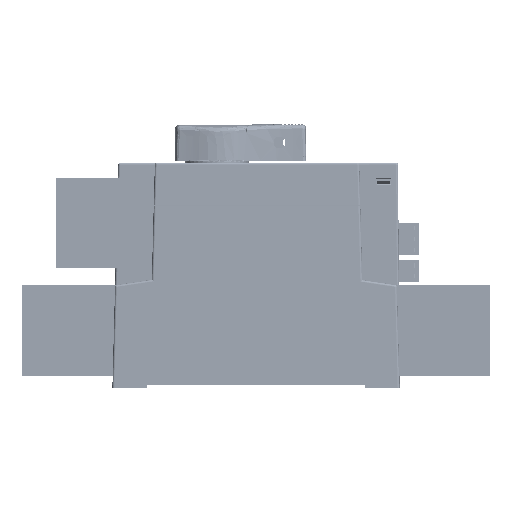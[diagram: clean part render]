
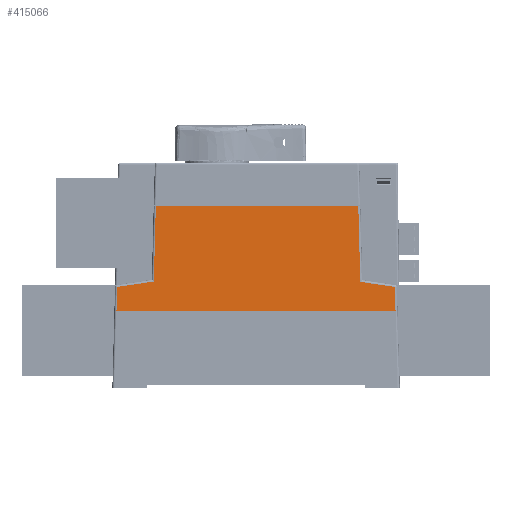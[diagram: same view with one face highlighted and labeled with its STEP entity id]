
A CAD part, left-side view. The second image highlights one B-rep face of the part: STEP entity #415066.
In plain terms, the highlighted planar face has unit normal (-1, 0, 0.018).
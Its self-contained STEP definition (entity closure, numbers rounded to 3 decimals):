
#2977 = VERTEX_POINT ( 'NONE', #84389 ) ;
#7109 = LINE ( 'NONE', #278906, #374508 ) ;
#9544 = VERTEX_POINT ( 'NONE', #373267 ) ;
#23510 = EDGE_LOOP ( 'NONE', ( #284565, #523336, #198663, #212450, #202195, #516081, #252465, #379593 ) ) ;
#53334 = VERTEX_POINT ( 'NONE', #147614 ) ;
#57555 = VERTEX_POINT ( 'NONE', #392911 ) ;
#61555 = CARTESIAN_POINT ( 'NONE',  ( -189.15, -49.022, 48.708 ) ) ;
#73228 = EDGE_CURVE ( 'NONE', #57555, #53334, #498275, .T. ) ;
#76127 = CARTESIAN_POINT ( 'NONE',  ( -188.15, -63.725, 105.97 ) ) ;
#84389 = CARTESIAN_POINT ( 'NONE',  ( -189.389, -65.584, 35. ) ) ;
#94324 = VECTOR ( 'NONE', #326955, 1000. ) ;
#95102 = EDGE_CURVE ( 'NONE', #431000, #217596, #563726, .T. ) ;
#102885 = LINE ( 'NONE', #76127, #292989 ) ;
#132067 = DIRECTION ( 'NONE',  ( 1., 0., -0.017 ) ) ;
#147614 = CARTESIAN_POINT ( 'NONE',  ( -188.525, 47.089, 84.5 ) ) ;
#188930 = CARTESIAN_POINT ( 'NONE',  ( -189.389, 65.584, 35. ) ) ;
#190798 = DIRECTION ( 'NONE',  ( -0.003, -0.989, -0.148 ) ) ;
#192431 = VERTEX_POINT ( 'NONE', #188930 ) ;
#192520 = VECTOR ( 'NONE', #501623, 1000. ) ;
#198663 = ORIENTED_EDGE ( 'NONE', *, *, #506011, .F. ) ;
#200439 = FACE_OUTER_BOUND ( 'NONE', #23510, .T. ) ;
#202195 = ORIENTED_EDGE ( 'NONE', *, *, #95102, .F. ) ;
#209344 = VECTOR ( 'NONE', #477811, 1000. ) ;
#212450 = ORIENTED_EDGE ( 'NONE', *, *, #493351, .T. ) ;
#217596 = VERTEX_POINT ( 'NONE', #560535 ) ;
#243373 = CARTESIAN_POINT ( 'NONE',  ( -188.091, 63.636, 109.371 ) ) ;
#252465 = ORIENTED_EDGE ( 'NONE', *, *, #512360, .F. ) ;
#259396 = CARTESIAN_POINT ( 'NONE',  ( -189.186, 62.778, 46.652 ) ) ;
#263247 = DIRECTION ( 'NONE',  ( 0., 1., 0. ) ) ;
#264398 = CARTESIAN_POINT ( 'NONE',  ( -188.525, 89.402, 84.5 ) ) ;
#278906 = CARTESIAN_POINT ( 'NONE',  ( -188.525, -48.085, 84.5 ) ) ;
#284565 = ORIENTED_EDGE ( 'NONE', *, *, #333116, .F. ) ;
#292989 = VECTOR ( 'NONE', #376173, 1000. ) ;
#298085 = LINE ( 'NONE', #243373, #94324 ) ;
#322611 = DIRECTION ( 'NONE',  ( -0.017, -0.026, -1. ) ) ;
#326955 = DIRECTION ( 'NONE',  ( -0.017, 0.026, -1. ) ) ;
#328427 = CARTESIAN_POINT ( 'NONE',  ( -189.192, 65.288, 46.277 ) ) ;
#333116 = EDGE_CURVE ( 'NONE', #344136, #57555, #419742, .T. ) ;
#344136 = VERTEX_POINT ( 'NONE', #328427 ) ;
#358910 = AXIS2_PLACEMENT_3D ( 'NONE', #561356, #132067, #433944 ) ;
#373267 = CARTESIAN_POINT ( 'NONE',  ( -188.525, -48.085, 84.5 ) ) ;
#374508 = VECTOR ( 'NONE', #322611, 1000. ) ;
#376173 = DIRECTION ( 'NONE',  ( 0.017, 0.026, 1. ) ) ;
#379593 = ORIENTED_EDGE ( 'NONE', *, *, #73228, .F. ) ;
#381484 = LINE ( 'NONE', #264398, #538040 ) ;
#392911 = CARTESIAN_POINT ( 'NONE',  ( -189.147, 48.022, 48.858 ) ) ;
#415066 = ADVANCED_FACE ( 'NONE', ( #200439 ), #428363, .F. ) ;
#418587 = EDGE_CURVE ( 'NONE', #344136, #192431, #298085, .T. ) ;
#419742 = LINE ( 'NONE', #259396, #209344 ) ;
#428363 = PLANE ( 'NONE',  #358910 ) ;
#431000 = VERTEX_POINT ( 'NONE', #448038 ) ;
#433944 = DIRECTION ( 'NONE',  ( -0.017, 0., -1. ) ) ;
#439060 = DIRECTION ( 'NONE',  ( 0., -1., 0. ) ) ;
#448038 = CARTESIAN_POINT ( 'NONE',  ( -189.15, -49.022, 48.708 ) ) ;
#448055 = VECTOR ( 'NONE', #190798, 1000. ) ;
#461545 = CARTESIAN_POINT ( 'NONE',  ( -189.147, 48.022, 48.858 ) ) ;
#477811 = DIRECTION ( 'NONE',  ( 0.003, -0.989, 0.148 ) ) ;
#493351 = EDGE_CURVE ( 'NONE', #2977, #217596, #102885, .T. ) ;
#498275 = LINE ( 'NONE', #461545, #192520 ) ;
#501623 = DIRECTION ( 'NONE',  ( 0.017, -0.026, 1. ) ) ;
#506011 = EDGE_CURVE ( 'NONE', #2977, #192431, #510249, .T. ) ;
#510249 = LINE ( 'NONE', #517870, #517254 ) ;
#512360 = EDGE_CURVE ( 'NONE', #53334, #9544, #381484, .T. ) ;
#516081 = ORIENTED_EDGE ( 'NONE', *, *, #562198, .F. ) ;
#517254 = VECTOR ( 'NONE', #263247, 1000. ) ;
#517870 = CARTESIAN_POINT ( 'NONE',  ( -189.389, -65., 35. ) ) ;
#523336 = ORIENTED_EDGE ( 'NONE', *, *, #418587, .T. ) ;
#538040 = VECTOR ( 'NONE', #439060, 1000. ) ;
#560535 = CARTESIAN_POINT ( 'NONE',  ( -189.192, -65.288, 46.277 ) ) ;
#561356 = CARTESIAN_POINT ( 'NONE',  ( -188.15, -65., 106.003 ) ) ;
#562198 = EDGE_CURVE ( 'NONE', #9544, #431000, #7109, .T. ) ;
#563726 = LINE ( 'NONE', #61555, #448055 ) ;
